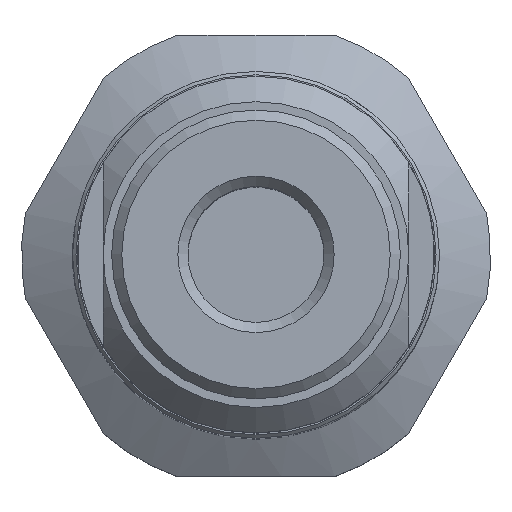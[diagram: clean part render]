
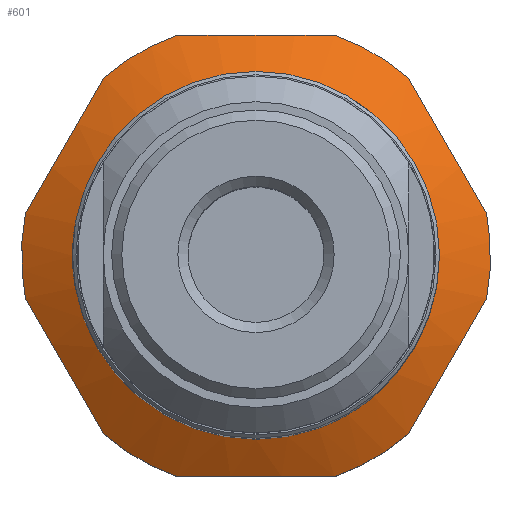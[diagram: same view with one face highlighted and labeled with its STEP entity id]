
A CAD part, top view. The second image highlights one B-rep face of the part: STEP entity #601.
In plain terms, the highlighted conical face has half-angle 60 degrees and reference radius 6.15 mm.
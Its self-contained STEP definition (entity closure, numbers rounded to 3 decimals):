
#58=(
BOUNDED_CURVE()
B_SPLINE_CURVE(2,(#972,#973,#974),.UNSPECIFIED.,.F.,.F.)
B_SPLINE_CURVE_WITH_KNOTS((3,3),(0.,0.465),.UNSPECIFIED.)
CURVE()
GEOMETRIC_REPRESENTATION_ITEM()
RATIONAL_B_SPLINE_CURVE((1.,1.062,1.))
REPRESENTATION_ITEM('')
);
#60=(
BOUNDED_CURVE()
B_SPLINE_CURVE(2,(#985,#986,#987),.UNSPECIFIED.,.F.,.F.)
B_SPLINE_CURVE_WITH_KNOTS((3,3),(0.,0.465),.UNSPECIFIED.)
CURVE()
GEOMETRIC_REPRESENTATION_ITEM()
RATIONAL_B_SPLINE_CURVE((1.,1.062,1.))
REPRESENTATION_ITEM('')
);
#62=(
BOUNDED_CURVE()
B_SPLINE_CURVE(2,(#998,#999,#1000),.UNSPECIFIED.,.F.,.F.)
B_SPLINE_CURVE_WITH_KNOTS((3,3),(0.,0.465),.UNSPECIFIED.)
CURVE()
GEOMETRIC_REPRESENTATION_ITEM()
RATIONAL_B_SPLINE_CURVE((1.,1.062,1.))
REPRESENTATION_ITEM('')
);
#64=(
BOUNDED_CURVE()
B_SPLINE_CURVE(2,(#1011,#1012,#1013),.UNSPECIFIED.,.F.,.F.)
B_SPLINE_CURVE_WITH_KNOTS((3,3),(0.,0.465),.UNSPECIFIED.)
CURVE()
GEOMETRIC_REPRESENTATION_ITEM()
RATIONAL_B_SPLINE_CURVE((1.,1.062,1.))
REPRESENTATION_ITEM('')
);
#65=(
BOUNDED_CURVE()
B_SPLINE_CURVE(2,(#1018,#1019,#1020),.UNSPECIFIED.,.F.,.F.)
B_SPLINE_CURVE_WITH_KNOTS((3,3),(0.,0.465),.UNSPECIFIED.)
CURVE()
GEOMETRIC_REPRESENTATION_ITEM()
RATIONAL_B_SPLINE_CURVE((1.,1.062,1.))
REPRESENTATION_ITEM('')
);
#67=(
BOUNDED_CURVE()
B_SPLINE_CURVE(2,(#1031,#1032,#1033),.UNSPECIFIED.,.F.,.F.)
B_SPLINE_CURVE_WITH_KNOTS((3,3),(0.,0.465),.UNSPECIFIED.)
CURVE()
GEOMETRIC_REPRESENTATION_ITEM()
RATIONAL_B_SPLINE_CURVE((1.,1.062,1.))
REPRESENTATION_ITEM('')
);
#76=CONICAL_SURFACE('',#679,6.15,60.);
#93=FACE_BOUND('',#207,.T.);
#152=FACE_OUTER_BOUND('',#206,.T.);
#206=EDGE_LOOP('',(#512,#513,#514,#515,#516,#517,#518,#519,#520,#521,#522,
#523));
#207=EDGE_LOOP('',(#524));
#249=CIRCLE('',#663,6.9);
#250=CIRCLE('',#665,6.9);
#252=CIRCLE('',#668,6.9);
#255=CIRCLE('',#672,6.9);
#256=CIRCLE('',#674,6.9);
#260=CIRCLE('',#680,6.9);
#261=CIRCLE('',#681,5.4);
#292=VERTEX_POINT('',#969);
#293=VERTEX_POINT('',#971);
#296=VERTEX_POINT('',#982);
#297=VERTEX_POINT('',#984);
#300=VERTEX_POINT('',#995);
#301=VERTEX_POINT('',#997);
#304=VERTEX_POINT('',#1008);
#305=VERTEX_POINT('',#1010);
#306=VERTEX_POINT('',#1016);
#307=VERTEX_POINT('',#1017);
#310=VERTEX_POINT('',#1029);
#311=VERTEX_POINT('',#1030);
#315=VERTEX_POINT('',#1062);
#355=EDGE_CURVE('',#293,#292,#58,.T.);
#359=EDGE_CURVE('',#297,#296,#60,.T.);
#363=EDGE_CURVE('',#301,#300,#62,.T.);
#367=EDGE_CURVE('',#305,#304,#64,.T.);
#369=EDGE_CURVE('',#306,#307,#65,.T.);
#373=EDGE_CURVE('',#310,#311,#67,.T.);
#378=EDGE_CURVE('',#310,#307,#249,.T.);
#379=EDGE_CURVE('',#301,#311,#250,.T.);
#381=EDGE_CURVE('',#297,#304,#252,.T.);
#384=EDGE_CURVE('',#305,#300,#255,.T.);
#385=EDGE_CURVE('',#293,#296,#256,.T.);
#389=EDGE_CURVE('',#306,#292,#260,.T.);
#390=EDGE_CURVE('',#315,#315,#261,.T.);
#512=ORIENTED_EDGE('',*,*,#355,.T.);
#513=ORIENTED_EDGE('',*,*,#389,.F.);
#514=ORIENTED_EDGE('',*,*,#369,.T.);
#515=ORIENTED_EDGE('',*,*,#378,.F.);
#516=ORIENTED_EDGE('',*,*,#373,.T.);
#517=ORIENTED_EDGE('',*,*,#379,.F.);
#518=ORIENTED_EDGE('',*,*,#363,.T.);
#519=ORIENTED_EDGE('',*,*,#384,.F.);
#520=ORIENTED_EDGE('',*,*,#367,.T.);
#521=ORIENTED_EDGE('',*,*,#381,.F.);
#522=ORIENTED_EDGE('',*,*,#359,.T.);
#523=ORIENTED_EDGE('',*,*,#385,.F.);
#524=ORIENTED_EDGE('',*,*,#390,.T.);
#601=ADVANCED_FACE('',(#152,#93),#76,.T.);
#663=AXIS2_PLACEMENT_3D('',#1043,#812,#813);
#665=AXIS2_PLACEMENT_3D('',#1045,#816,#817);
#668=AXIS2_PLACEMENT_3D('',#1048,#822,#823);
#672=AXIS2_PLACEMENT_3D('',#1052,#830,#831);
#674=AXIS2_PLACEMENT_3D('',#1054,#834,#835);
#679=AXIS2_PLACEMENT_3D('',#1060,#844,#845);
#680=AXIS2_PLACEMENT_3D('',#1061,#846,#847);
#681=AXIS2_PLACEMENT_3D('',#1063,#848,#849);
#812=DIRECTION('center_axis',(0.,0.,-1.));
#813=DIRECTION('ref_axis',(1.,0.,0.));
#816=DIRECTION('center_axis',(0.,0.,-1.));
#817=DIRECTION('ref_axis',(1.,0.,0.));
#822=DIRECTION('center_axis',(0.,0.,-1.));
#823=DIRECTION('ref_axis',(1.,0.,0.));
#830=DIRECTION('center_axis',(0.,0.,-1.));
#831=DIRECTION('ref_axis',(1.,0.,0.));
#834=DIRECTION('center_axis',(0.,0.,-1.));
#835=DIRECTION('ref_axis',(1.,0.,0.));
#844=DIRECTION('center_axis',(0.,0.,-1.));
#845=DIRECTION('ref_axis',(0.,1.,0.));
#846=DIRECTION('center_axis',(0.,0.,-1.));
#847=DIRECTION('ref_axis',(1.,0.,0.));
#848=DIRECTION('center_axis',(0.,0.,-1.));
#849=DIRECTION('ref_axis',(1.,0.,0.));
#969=CARTESIAN_POINT('',(6.787,-1.245,-9.466));
#971=CARTESIAN_POINT('',(4.472,-5.255,-9.466));
#972=CARTESIAN_POINT('Ctrl Pts',(4.472,-5.255,-9.466));
#973=CARTESIAN_POINT('Ctrl Pts',(5.629,-3.25,-9.018));
#974=CARTESIAN_POINT('Ctrl Pts',(6.787,-1.245,-9.466));
#982=CARTESIAN_POINT('',(2.315,-6.5,-9.466));
#984=CARTESIAN_POINT('',(-2.315,-6.5,-9.466));
#985=CARTESIAN_POINT('Ctrl Pts',(-2.315,-6.5,-9.466));
#986=CARTESIAN_POINT('Ctrl Pts',(0.,-6.5,-9.018));
#987=CARTESIAN_POINT('Ctrl Pts',(2.315,-6.5,-9.466));
#995=CARTESIAN_POINT('',(-6.787,1.245,-9.466));
#997=CARTESIAN_POINT('',(-4.472,5.255,-9.466));
#998=CARTESIAN_POINT('Ctrl Pts',(-4.472,5.255,-9.466));
#999=CARTESIAN_POINT('Ctrl Pts',(-5.629,3.25,-9.018));
#1000=CARTESIAN_POINT('Ctrl Pts',(-6.787,1.245,-9.466));
#1008=CARTESIAN_POINT('',(-4.472,-5.255,-9.466));
#1010=CARTESIAN_POINT('',(-6.787,-1.245,-9.466));
#1011=CARTESIAN_POINT('Ctrl Pts',(-6.787,-1.245,-9.466));
#1012=CARTESIAN_POINT('Ctrl Pts',(-5.629,-3.25,-9.018));
#1013=CARTESIAN_POINT('Ctrl Pts',(-4.472,-5.255,-9.466));
#1016=CARTESIAN_POINT('',(6.787,1.245,-9.466));
#1017=CARTESIAN_POINT('',(4.472,5.255,-9.466));
#1018=CARTESIAN_POINT('Ctrl Pts',(6.787,1.245,-9.466));
#1019=CARTESIAN_POINT('Ctrl Pts',(5.629,3.25,-9.018));
#1020=CARTESIAN_POINT('Ctrl Pts',(4.472,5.255,-9.466));
#1029=CARTESIAN_POINT('',(2.315,6.5,-9.466));
#1030=CARTESIAN_POINT('',(-2.315,6.5,-9.466));
#1031=CARTESIAN_POINT('Ctrl Pts',(2.315,6.5,-9.466));
#1032=CARTESIAN_POINT('Ctrl Pts',(0.,6.5,-9.018));
#1033=CARTESIAN_POINT('Ctrl Pts',(-2.315,6.5,-9.466));
#1043=CARTESIAN_POINT('Origin',(0.,0.,-9.466));
#1045=CARTESIAN_POINT('Origin',(0.,0.,-9.466));
#1048=CARTESIAN_POINT('Origin',(0.,0.,-9.466));
#1052=CARTESIAN_POINT('Origin',(0.,0.,-9.466));
#1054=CARTESIAN_POINT('Origin',(0.,0.,-9.466));
#1060=CARTESIAN_POINT('Origin',(0.,0.,-9.033));
#1061=CARTESIAN_POINT('Origin',(0.,0.,-9.466));
#1062=CARTESIAN_POINT('',(0.,5.4,-8.6));
#1063=CARTESIAN_POINT('Origin',(0.,0.,-8.6));
